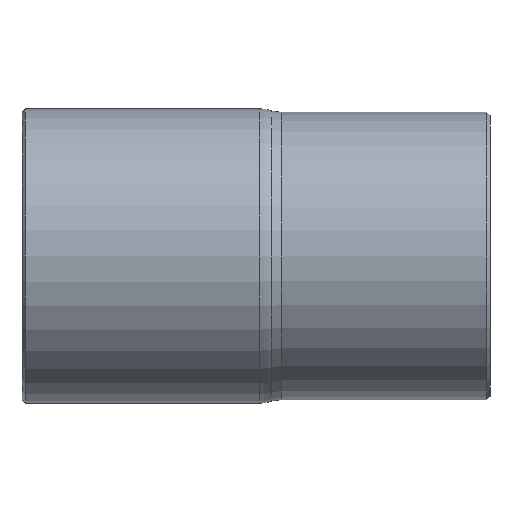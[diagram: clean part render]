
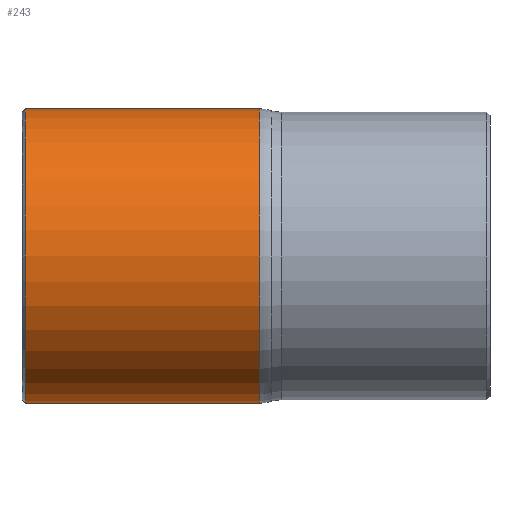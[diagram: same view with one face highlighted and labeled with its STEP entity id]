
A CAD part, front view. The second image highlights one B-rep face of the part: STEP entity #243.
In plain terms, the highlighted cylindrical face has radius 9.525 mm (diameter 19.05 mm), a full revolution.
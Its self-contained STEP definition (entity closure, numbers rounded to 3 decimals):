
#212=CARTESIAN_POINT('',(-18.7,9.525,0.));
#213=VERTEX_POINT('',#212);
#214=CARTESIAN_POINT('',(-18.7,0.0,0.0));
#215=DIRECTION('',(-1.0,0.0,0.0));
#216=DIRECTION('',(0.0,-1.0,0.0));
#217=AXIS2_PLACEMENT_3D('',#214,#215,#216);
#218=CIRCLE('',#217,9.525);
#219=EDGE_CURVE('',#213,#213,#218,.T.);
#224=CARTESIAN_POINT('',(-11.2,0.0,0.0));
#225=DIRECTION('',(1.0,0.0,0.0));
#226=DIRECTION('',(0.0,1.0,0.0));
#227=AXIS2_PLACEMENT_3D('',#224,#225,#226);
#228=CYLINDRICAL_SURFACE('',#227,9.525);
#229=CARTESIAN_POINT('',(-3.5,9.525,0.0));
#230=VERTEX_POINT('',#229);
#231=CARTESIAN_POINT('',(-3.5,0.0,0.0));
#232=DIRECTION('',(1.0,0.0,0.0));
#233=DIRECTION('',(0.0,1.0,0.0));
#234=AXIS2_PLACEMENT_3D('',#231,#232,#233);
#235=CIRCLE('',#234,9.525);
#236=EDGE_CURVE('',#230,#230,#235,.T.);
#237=ORIENTED_EDGE('',*,*,#236,.F.);
#238=EDGE_LOOP('',(#237));
#239=FACE_OUTER_BOUND('',#238,.T.);
#240=ORIENTED_EDGE('',*,*,#219,.F.);
#241=EDGE_LOOP('',(#240));
#242=FACE_BOUND('',#241,.T.);
#243=ADVANCED_FACE('',(#239,#242),#228,.T.);
